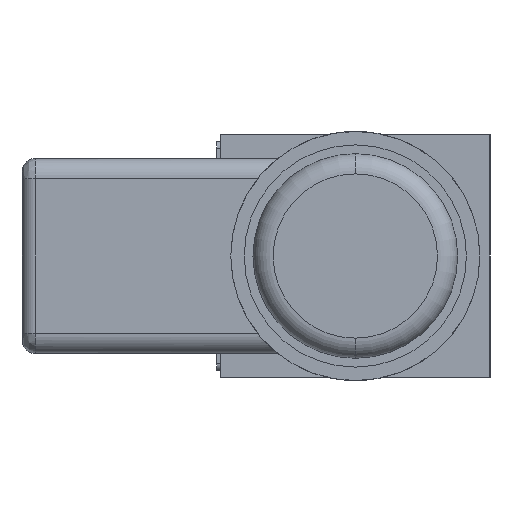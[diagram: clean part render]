
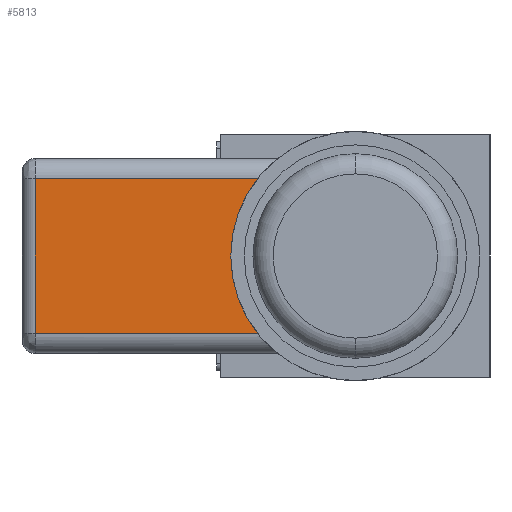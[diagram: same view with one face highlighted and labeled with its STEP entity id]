
A CAD part, left-side view. The second image highlights one B-rep face of the part: STEP entity #5813.
In plain terms, the highlighted planar face has unit normal (-1, 0, 0).
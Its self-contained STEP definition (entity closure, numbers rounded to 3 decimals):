
#216=DIRECTION('',(0.,0.,-1.));
#217=VECTOR('',#216,23.);
#218=CARTESIAN_POINT('',(-61.,47.5,11.5));
#219=LINE('',#218,#217);
#286=DIRECTION('',(0.,1.,0.));
#287=VECTOR('',#286,33.009);
#288=CARTESIAN_POINT('',(-61.,14.491,11.5));
#289=LINE('',#288,#287);
#290=CARTESIAN_POINT('',(-61.,0.,0.));
#291=DIRECTION('',(-1.,0.,0.));
#292=DIRECTION('',(0.,0.783,0.622));
#293=AXIS2_PLACEMENT_3D('',#290,#291,#292);
#295=CARTESIAN_POINT('',(-61.,0.,0.));
#296=DIRECTION('',(-1.,0.,0.));
#297=DIRECTION('',(0.,1.,0.));
#298=AXIS2_PLACEMENT_3D('',#295,#296,#297);
#375=DIRECTION('',(0.,-1.,0.));
#376=VECTOR('',#375,33.009);
#377=CARTESIAN_POINT('',(-61.,47.5,-11.5));
#378=LINE('',#377,#376);
#4611=CARTESIAN_POINT('',(-61.,18.5,0.));
#4612=VERTEX_POINT('',#4611);
#4613=CARTESIAN_POINT('',(-61.,14.491,11.5));
#4614=VERTEX_POINT('',#4613);
#4636=CARTESIAN_POINT('',(-61.,47.5,-11.5));
#4637=VERTEX_POINT('',#4636);
#4640=CARTESIAN_POINT('',(-61.,47.5,11.5));
#4641=VERTEX_POINT('',#4640);
#4646=CARTESIAN_POINT('',(-61.,14.491,-11.5));
#4647=VERTEX_POINT('',#4646);
#5799=CARTESIAN_POINT('',(-61.,29.5,11.5));
#5800=DIRECTION('',(-1.,0.,0.));
#5801=DIRECTION('',(0.,0.,-1.));
#5802=AXIS2_PLACEMENT_3D('',#5799,#5800,#5801);
#5803=PLANE('',#5802);
#5804=ORIENTED_EDGE('',*,*,#5689,.F.);
#5805=ORIENTED_EDGE('',*,*,#5794,.F.);
#5806=ORIENTED_EDGE('',*,*,#5588,.T.);
#5808=ORIENTED_EDGE('',*,*,#5807,.T.);
#5810=ORIENTED_EDGE('',*,*,#5809,.F.);
#5811=EDGE_LOOP('',(#5804,#5805,#5806,#5808,#5810));
#5812=FACE_OUTER_BOUND('',#5811,.F.);
#294=CIRCLE('',#293,18.5);
#299=CIRCLE('',#298,18.5);
#5588=EDGE_CURVE('',#4614,#4612,#294,.T.);
#5689=EDGE_CURVE('',#4641,#4637,#219,.T.);
#5794=EDGE_CURVE('',#4614,#4641,#289,.T.);
#5807=EDGE_CURVE('',#4612,#4647,#299,.T.);
#5809=EDGE_CURVE('',#4637,#4647,#378,.T.);
#5813=ADVANCED_FACE('',(#5812),#5803,.T.);
